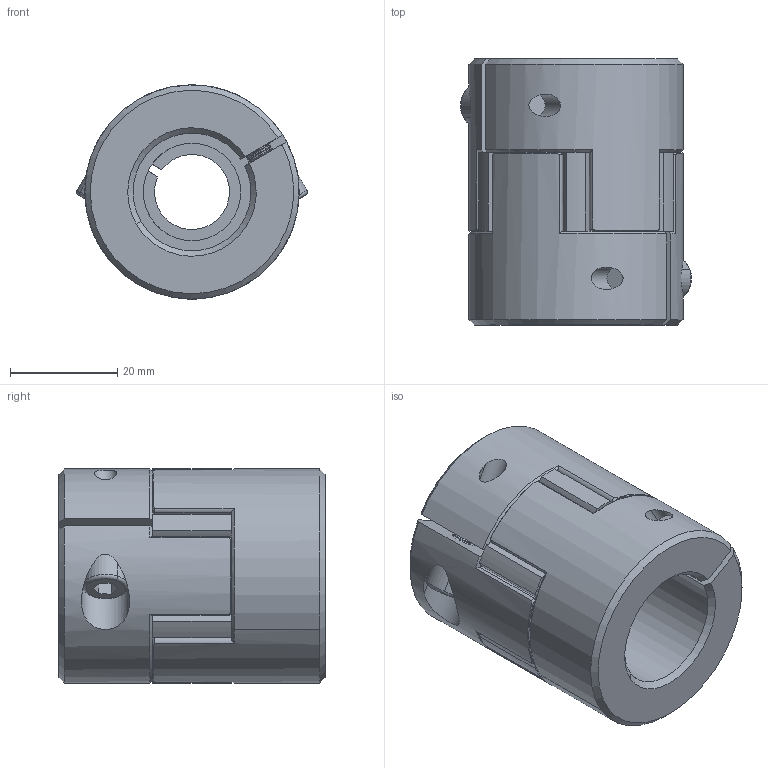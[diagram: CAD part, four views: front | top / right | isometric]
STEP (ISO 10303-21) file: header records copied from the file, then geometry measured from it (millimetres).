
FILE_DESCRIPTION (( 'STEP AP203' ), '1' );
FILE_NAME ('LF-B-D40L50-14-22.STEP', '2021-10-25T03:10:31', ( '' ), ( '' ), 'SwSTEP 2.0', 'SolidWorks 2018', '' );
FILE_SCHEMA (( 'CONFIG_CONTROL_DESIGN' ));
Length unit declared in the file: millimetre
Products named in the file (1): LF-B-D40L50-14-22
Bounding box: 43.11 x 49.7 x 40 mm (x, y, z)
Volume: 47678.5 mm3; surface area: 14730.3 mm2
Topology: 1 solids, 7 shells, 470 faces, 1113 edges, 660 vertices
Faces by surface type: cone 170, cylinder 169, plane 127, torus 4
Entity records: 13932 total; most frequent: CARTESIAN_POINT 2888, DIRECTION 2501, ORIENTED_EDGE 2218, EDGE_CURVE 1109, AXIS2_PLACEMENT_3D 1037, VERTEX_POINT 660, CIRCLE 566, EDGE_LOOP 487
